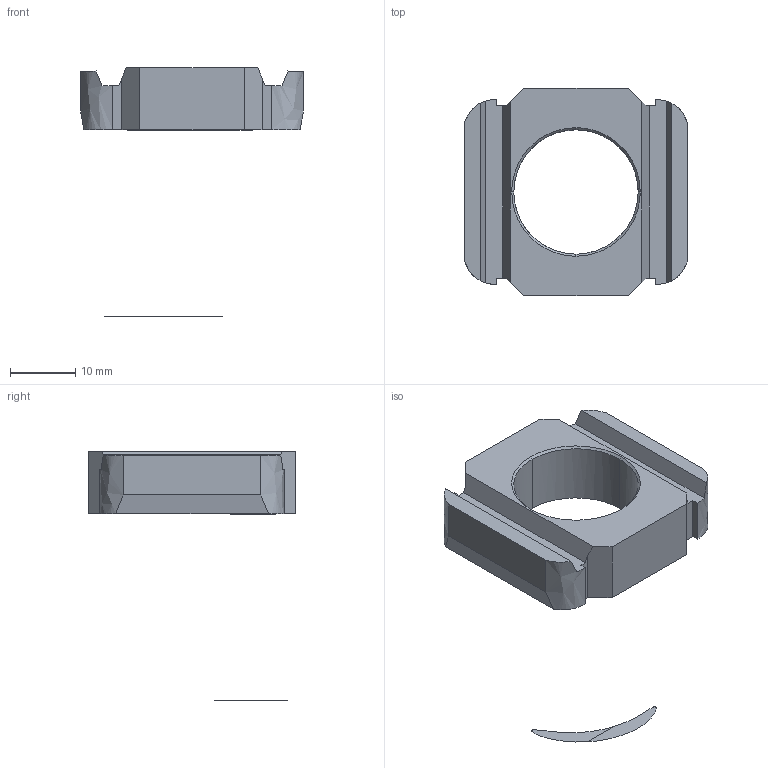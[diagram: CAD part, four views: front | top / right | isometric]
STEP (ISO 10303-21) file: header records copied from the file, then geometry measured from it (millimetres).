
FILE_DESCRIPTION(('TurboCAD Mac Pro'),'Build 980');
FILE_NAME('P1023S.stp',' ',(''),(''),'ACIS Interop','IMSI','TurboCAD Mac Pro BY IMSI, INCORPORATED');
FILE_SCHEMA(('automotive_design'));
Length unit declared in the file: inch
Products named in the file (2): 1; 2
Bounding box: 34.16 x 31.75 x 38.1 mm (x, y, z)
Volume: 6174.1 mm3; surface area: 3360.8 mm2
Topology: 1 solids, 3 shells, 43 faces, 117 edges, 78 vertices
Faces by surface type: plane 31, bspline 12
Entity records: 4737 total; most frequent: CARTESIAN_POINT 3331, ORIENTED_EDGE 238, DIRECTION 145, EDGE_CURVE 119, LINE 79, VECTOR 79, VERTEX_POINT 78, STYLED_ITEM 47
